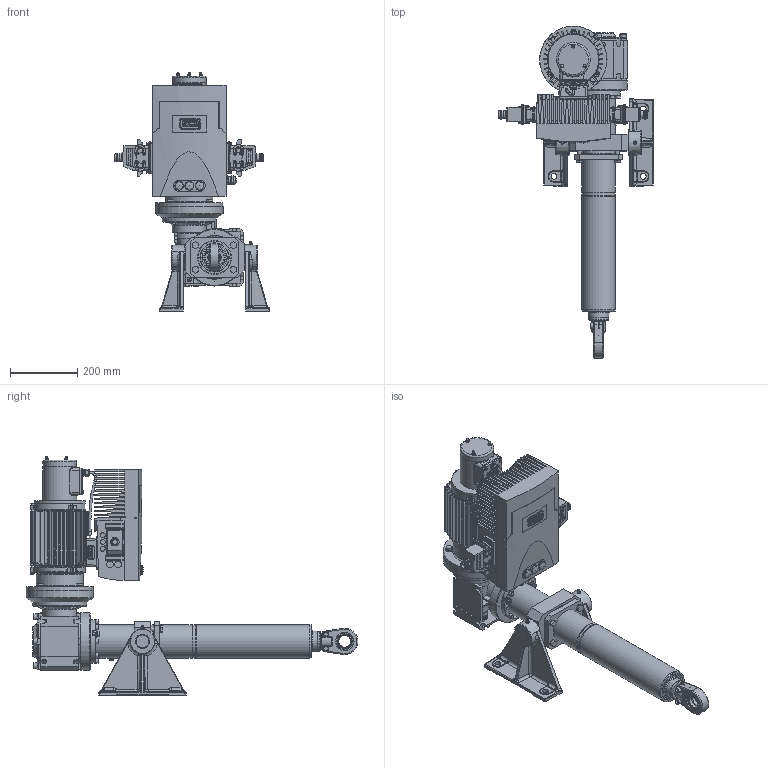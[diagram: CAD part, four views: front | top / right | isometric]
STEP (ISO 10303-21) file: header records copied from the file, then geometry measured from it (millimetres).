
FILE_DESCRIPTION(/* description */ ('Unknown'),/* implementation_level */ '2;1');
FILE_NAME(/* name */ 'T6T7-RM-0400-168-255-5',/* time_stamp */ '2025-07-21T10:43:08+02:00',/* author */ ('Unknown'),/* organization */ ('Unknown'),/* preprocessor_version */ 'ST-DEVELOPER v19.4',/* originating_system */ 'Solid Edge',/* authorisation */ 'Unknown');
FILE_SCHEMA (('AUTOMOTIVE_DESIGN {1 0 10303 214 3 1 1}'));
Length unit declared in the file: millimetre
Products named in the file (19): 168-255-5; 01.00-07-0400_6; 02.14-07-0400_6; 01.15-07-0400_6; Erdungsschraube_M8_90°; 151-233-1; 01.74-07_6_M28x1,5; 157-587-2; 02.43-07_6_SKSI75; FU-BG-3; 90-B5_ohne; Adapter-FU-BG-3; 03.65-07_6_Ø100; 03.32-07; SK1SI75-IEC90; Gehaeuse_A2; Steckverbinder_kpl; 4fach-LED; 168-255-5_1
Assembly tree (19 placements, depth 3):
  168-255-5
    01.00-07-0400_6
      02.14-07-0400_6
      01.15-07-0400_6
      Erdungsschraube_M8_90°
      151-233-1
    01.74-07_6_M28x1,5
    157-587-2
    02.43-07_6_SKSI75
    FU-BG-3
    90-B5_ohne
    Adapter-FU-BG-3
    03.65-07_6_Ø100
    03.32-07
    SK1SI75-IEC90
    Gehaeuse_A2
    Steckverbinder_kpl  x2
    4fach-LED
    168-255-5_1
Bounding box: 458.95 x 984.5 x 708 mm (x, y, z)
Volume: 27078577.6 mm3; surface area: 2443263.9 mm2
Topology: 28 solids, 38 shells, 5397 faces, 14100 edges, 9175 vertices
Faces by surface type: plane 3574, cylinder 1286, cone 235, bspline 141, torus 126, sphere 35
Full cylindrical faces by diameter (mm): 1 x39, 2 x1, 2.5 x2, 3 x4, 4 x2, 4.917 x2, 5 x24, 5.5 x1, 6 x7, 6.4 x2, 7 x9, 7.5 x3, 7.6 x8, 8 x3, 8.15 x1, 8.16 x4, 8.2 x1, 8.4 x3, 8.566 x1, 9.1 x3, 9.728 x1, 10 x23, 10.16 x1, 10.5 x4, 11 x4, 11.6 x1, 12 x6, 12.5 x2, 12.8 x1, 13 x11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
Entity records: 184720 total; most frequent: CARTESIAN_POINT 32530, ORIENTED_EDGE 25090, DIRECTION 24989, EDGE_CURVE 12545, AXIS2_PLACEMENT_3D 8579, VERTEX_POINT 8389, LINE 7831, VECTOR 7831
